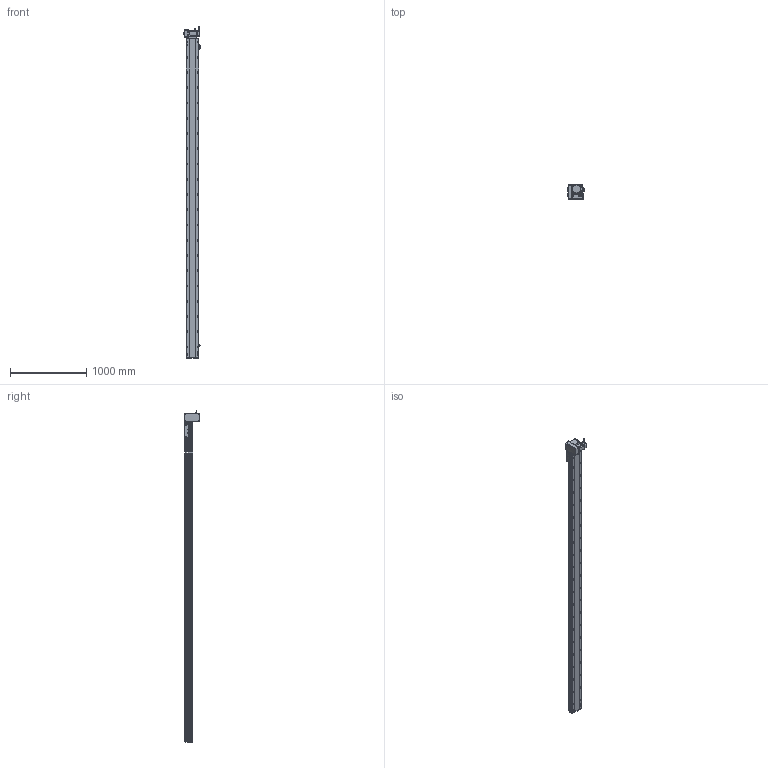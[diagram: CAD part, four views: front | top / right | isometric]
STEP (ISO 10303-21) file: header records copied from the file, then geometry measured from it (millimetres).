
FILE_DESCRIPTION (( 'STEP AP214' ), '1' );
FILE_NAME ('RTB17S-XX-3900-LM-M75-C4.STEP', '2025-12-12T00:55:01', ( '' ), ( '' ), 'SwSTEP 2.0', 'SolidWorks 2018', '' );
FILE_SCHEMA (( 'AUTOMOTIVE_DESIGN' ));
Length unit declared in the file: millimetre
Products named in the file (15): RTB22S-GY-008-M75--萇儂啣^RTB17S-LM-々湍釱蚾饜-750W_RTB17S-XX-XX-LM-M75-C4; EE672^RTB17S-XX-XX-LM-M75-C4; RTB22S-GY-018P^RTB17S-LM-々湍釱蚾饜-750W_RTB17S-XX-XX-LM-M75-C4; RTH13-BL-012覜茼え俋离^RTB17S-賑釱_RTB17S-XX-XX-LM-M75-C4; RTB17S-L-007奻裔^RTB17S-XX-XX-LM-M75-C4; RTB22S-GY-017P^RTB17S-LM-々湍釱蚾饜-750W_RTB17S-XX-XX-LM-M75-C4; RTB17S-賑釱^RTB17S-XX-XX-LM-M75-C4; RTB22S-GY-005P^RTB17S-LM-々湍釱蚾饜-750W_RTB17S-XX-XX-LM-M75-C4; RTB17S-L-004-賑釱^RTB17S-賑釱_RTB17S-XX-XX-LM-M75-C4; RTB17S-L-001-耜醱啣^RTB17S-XX-XX-LM-M75-C4; RTB17-R-011菁釱^RTB17S-XX-XX-LM-M75-C4; RTB17S-L-014-T20-P75--々湍釱^RTB17S-LM-々湍釱蚾饜-750W_RTB17S-XX-XX-LM-M75-C4; RTB17S-XX-3900-LM-M75-C4; 750W萇儂^RTB17S-XX-XX-LM-M75-C4; RTB17S-LM-々湍釱蚾饜-750W^RTB17S-XX-XX-LM-M75-C4
Assembly tree (17 placements, depth 3):
  RTB17S-XX-3900-LM-M75-C4
    RTB17-R-011菁釱^RTB17S-XX-XX-LM-M75-C4
    EE672^RTB17S-XX-XX-LM-M75-C4  x3
    RTB17S-L-001-耜醱啣^RTB17S-XX-XX-LM-M75-C4
    RTB17S-賑釱^RTB17S-XX-XX-LM-M75-C4
      RTB17S-L-004-賑釱^RTB17S-賑釱_RTB17S-XX-XX-LM-M75-C4
      RTH13-BL-012覜茼え俋离^RTB17S-賑釱_RTB17S-XX-XX-LM-M75-C4
    RTB17S-L-007奻裔^RTB17S-XX-XX-LM-M75-C4
    750W萇儂^RTB17S-XX-XX-LM-M75-C4
    RTB17S-LM-々湍釱蚾饜-750W^RTB17S-XX-XX-LM-M75-C4
      RTB17S-L-014-T20-P75--々湍釱^RTB17S-LM-々湍釱蚾饜-750W_RTB17S-XX-XX-LM-M75-C4
      RTB22S-GY-005P^RTB17S-LM-々湍釱蚾饜-750W_RTB17S-XX-XX-LM-M75-C4
      RTB22S-GY-017P^RTB17S-LM-々湍釱蚾饜-750W_RTB17S-XX-XX-LM-M75-C4  x2
      RTB22S-GY-008-M75--萇儂啣^RTB17S-LM-々湍釱蚾饜-750W_RTB17S-XX-XX-LM-M75-C4
      RTB22S-GY-018P^RTB17S-LM-々湍釱蚾饜-750W_RTB17S-XX-XX-LM-M75-C4
Bounding box: 210.4 x 200 x 4352.2 mm (x, y, z)
Volume: 30326878.6 mm3; surface area: 5633973.1 mm2
Topology: 17 solids, 17 shells, 2329 faces, 6592 edges, 4274 vertices
Faces by surface type: plane 1000, cylinder 913, bspline 294, cone 110, sphere 8, torus 4
Entity records: 69622 total; most frequent: CARTESIAN_POINT 20856, ORIENTED_EDGE 10028, DIRECTION 9212, EDGE_CURVE 5014, AXIS2_PLACEMENT_3D 3294, VERTEX_POINT 3278, VECTOR 2624, LINE 2624
